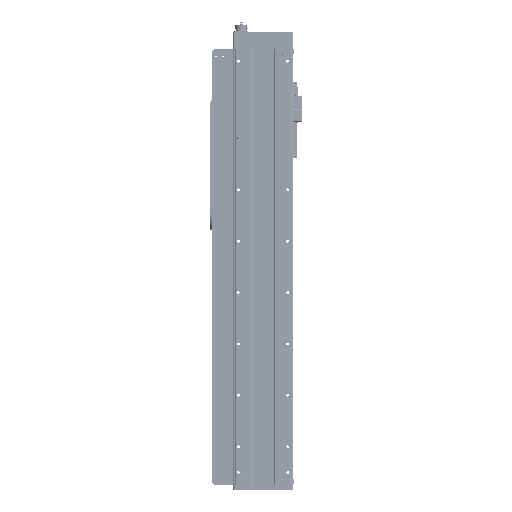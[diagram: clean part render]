
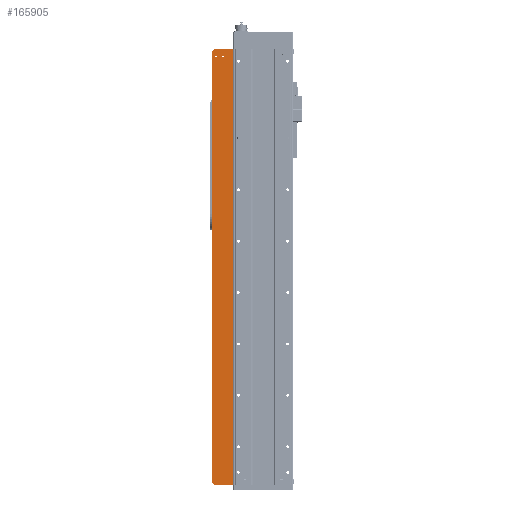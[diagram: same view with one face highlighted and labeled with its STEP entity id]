
A CAD part, front view. The second image highlights one B-rep face of the part: STEP entity #165905.
In plain terms, the highlighted planar face has unit normal (0, -1, 0).
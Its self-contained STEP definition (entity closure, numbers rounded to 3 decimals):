
#1148 = DIRECTION ( 'NONE',  ( 0., 1., 0. ) ) ;
#3137 = DIRECTION ( 'NONE',  ( -1., 0., 0. ) ) ;
#5665 = CIRCLE ( 'NONE', #305268, 1.65 ) ;
#15210 = AXIS2_PLACEMENT_3D ( 'NONE', #160018, #61839, #257217 ) ;
#18760 = FACE_BOUND ( 'NONE', #93321, .T. ) ;
#19726 = DIRECTION ( 'NONE',  ( 0., -1., 0. ) ) ;
#20096 = CARTESIAN_POINT ( 'NONE',  ( -148.243, -30.004, 500. ) ) ;
#20526 = DIRECTION ( 'NONE',  ( 0., 0., 1. ) ) ;
#20986 = AXIS2_PLACEMENT_3D ( 'NONE', #26499, #1148, #25472 ) ;
#22892 = CARTESIAN_POINT ( 'NONE',  ( -108.243, -30.004, 510. ) ) ;
#25472 = DIRECTION ( 'NONE',  ( 0., 0., 1. ) ) ;
#26499 = CARTESIAN_POINT ( 'NONE',  ( -132.243, -30.004, 492. ) ) ;
#27018 = VERTEX_POINT ( 'NONE', #22892 ) ;
#33281 = LINE ( 'NONE', #171250, #256424 ) ;
#34721 = CARTESIAN_POINT ( 'NONE',  ( -108.243, -30.004, -508. ) ) ;
#39477 = ORIENTED_EDGE ( 'NONE', *, *, #138572, .T. ) ;
#39724 = EDGE_LOOP ( 'NONE', ( #111780, #251368, #68567, #82909, #167128, #160158 ) ) ;
#40502 = CIRCLE ( 'NONE', #112773, 1.65 ) ;
#41803 = DIRECTION ( 'NONE',  ( 0., -1., 0. ) ) ;
#45045 = EDGE_LOOP ( 'NONE', ( #39477, #92035 ) ) ;
#46838 = VERTEX_POINT ( 'NONE', #186741 ) ;
#51964 = CARTESIAN_POINT ( 'NONE',  ( -148.243, -30.004, 510. ) ) ;
#61839 = DIRECTION ( 'NONE',  ( 0., 1., 0. ) ) ;
#63821 = AXIS2_PLACEMENT_3D ( 'NONE', #20096, #139559, #213450 ) ;
#68567 = ORIENTED_EDGE ( 'NONE', *, *, #121192, .T. ) ;
#73435 = CARTESIAN_POINT ( 'NONE',  ( -108.243, -30.004, -508. ) ) ;
#80290 = VERTEX_POINT ( 'NONE', #118199 ) ;
#82366 = DIRECTION ( 'NONE',  ( 0., 0., 1. ) ) ;
#82909 = ORIENTED_EDGE ( 'NONE', *, *, #279248, .T. ) ;
#86717 = FACE_OUTER_BOUND ( 'NONE', #39724, .T. ) ;
#90162 = DIRECTION ( 'NONE',  ( 0., 1., 0. ) ) ;
#90503 = DIRECTION ( 'NONE',  ( -1., 0., 0. ) ) ;
#92035 = ORIENTED_EDGE ( 'NONE', *, *, #257078, .T. ) ;
#93321 = EDGE_LOOP ( 'NONE', ( #281509, #289112 ) ) ;
#111780 = ORIENTED_EDGE ( 'NONE', *, *, #201300, .T. ) ;
#112773 = AXIS2_PLACEMENT_3D ( 'NONE', #117537, #90162, #287567 ) ;
#114127 = VERTEX_POINT ( 'NONE', #73435 ) ;
#115416 = VERTEX_POINT ( 'NONE', #216937 ) ;
#117537 = CARTESIAN_POINT ( 'NONE',  ( -148.243, -30.004, 492. ) ) ;
#118199 = CARTESIAN_POINT ( 'NONE',  ( -158.243, -30.004, -498. ) ) ;
#121192 = EDGE_CURVE ( 'NONE', #27018, #266514, #276481, .T. ) ;
#125339 = CARTESIAN_POINT ( 'NONE',  ( -148.243, -30.004, 490.35 ) ) ;
#138572 = EDGE_CURVE ( 'NONE', #115416, #240692, #5665, .T. ) ;
#139559 = DIRECTION ( 'NONE',  ( 0., -1., 0. ) ) ;
#142946 = CARTESIAN_POINT ( 'NONE',  ( -158.243, -30.004, -508. ) ) ;
#143777 = CARTESIAN_POINT ( 'NONE',  ( -158.243, -30.004, 510. ) ) ;
#145825 = CIRCLE ( 'NONE', #15210, 1.65 ) ;
#149057 = DIRECTION ( 'NONE',  ( 1., 0., 0. ) ) ;
#158488 = FACE_BOUND ( 'NONE', #45045, .T. ) ;
#160018 = CARTESIAN_POINT ( 'NONE',  ( -148.243, -30.004, 492. ) ) ;
#160158 = ORIENTED_EDGE ( 'NONE', *, *, #281040, .T. ) ;
#165905 = ADVANCED_FACE ( 'NONE', ( #18760, #158488, #86717 ), #265780, .T. ) ;
#167128 = ORIENTED_EDGE ( 'NONE', *, *, #277160, .T. ) ;
#170010 = EDGE_CURVE ( 'NONE', #302292, #180275, #145825, .T. ) ;
#171250 = CARTESIAN_POINT ( 'NONE',  ( -158.243, -30.004, -508. ) ) ;
#173015 = CIRCLE ( 'NONE', #262248, 10. ) ;
#173273 = CIRCLE ( 'NONE', #63821, 10. ) ;
#177918 = VECTOR ( 'NONE', #82366, 1000. ) ;
#180275 = VERTEX_POINT ( 'NONE', #125339 ) ;
#183798 = CARTESIAN_POINT ( 'NONE',  ( -158.243, -30.004, 500. ) ) ;
#186741 = CARTESIAN_POINT ( 'NONE',  ( -148.243, -30.004, -508. ) ) ;
#192526 = DIRECTION ( 'NONE',  ( 0., 0., -1. ) ) ;
#200602 = CARTESIAN_POINT ( 'NONE',  ( -132.243, -30.004, 490.35 ) ) ;
#201300 = EDGE_CURVE ( 'NONE', #46838, #114127, #33281, .T. ) ;
#204710 = VECTOR ( 'NONE', #3137, 1000. ) ;
#212856 = CARTESIAN_POINT ( 'NONE',  ( -132.243, -30.004, 492. ) ) ;
#213069 = DIRECTION ( 'NONE',  ( 0., 0., -1. ) ) ;
#213450 = DIRECTION ( 'NONE',  ( 1., 0., 0. ) ) ;
#216937 = CARTESIAN_POINT ( 'NONE',  ( -132.243, -30.004, 493.65 ) ) ;
#219529 = LINE ( 'NONE', #34721, #177918 ) ;
#221621 = VECTOR ( 'NONE', #192526, 1000. ) ;
#232959 = EDGE_CURVE ( 'NONE', #114127, #27018, #219529, .T. ) ;
#236196 = CARTESIAN_POINT ( 'NONE',  ( -148.243, -30.004, -498. ) ) ;
#240692 = VERTEX_POINT ( 'NONE', #200602 ) ;
#241586 = VERTEX_POINT ( 'NONE', #183798 ) ;
#251368 = ORIENTED_EDGE ( 'NONE', *, *, #232959, .T. ) ;
#256424 = VECTOR ( 'NONE', #149057, 1000. ) ;
#257078 = EDGE_CURVE ( 'NONE', #240692, #115416, #297316, .T. ) ;
#257217 = DIRECTION ( 'NONE',  ( 0., 0., 1. ) ) ;
#259485 = LINE ( 'NONE', #142946, #221621 ) ;
#262248 = AXIS2_PLACEMENT_3D ( 'NONE', #236196, #41803, #90503 ) ;
#265780 = PLANE ( 'NONE',  #283580 ) ;
#266514 = VERTEX_POINT ( 'NONE', #51964 ) ;
#267058 = CARTESIAN_POINT ( 'NONE',  ( -148.243, -30.004, 493.65 ) ) ;
#276481 = LINE ( 'NONE', #143777, #204710 ) ;
#277160 = EDGE_CURVE ( 'NONE', #241586, #80290, #259485, .T. ) ;
#279248 = EDGE_CURVE ( 'NONE', #266514, #241586, #173273, .T. ) ;
#281040 = EDGE_CURVE ( 'NONE', #80290, #46838, #173015, .T. ) ;
#281509 = ORIENTED_EDGE ( 'NONE', *, *, #170010, .T. ) ;
#283580 = AXIS2_PLACEMENT_3D ( 'NONE', #309239, #19726, #213069 ) ;
#285643 = DIRECTION ( 'NONE',  ( 0., 1., 0. ) ) ;
#287567 = DIRECTION ( 'NONE',  ( 0., 0., 1. ) ) ;
#289112 = ORIENTED_EDGE ( 'NONE', *, *, #294595, .T. ) ;
#294595 = EDGE_CURVE ( 'NONE', #180275, #302292, #40502, .T. ) ;
#297316 = CIRCLE ( 'NONE', #20986, 1.65 ) ;
#302292 = VERTEX_POINT ( 'NONE', #267058 ) ;
#305268 = AXIS2_PLACEMENT_3D ( 'NONE', #212856, #285643, #20526 ) ;
#309239 = CARTESIAN_POINT ( 'NONE',  ( -158.243, -30.004, -508. ) ) ;
